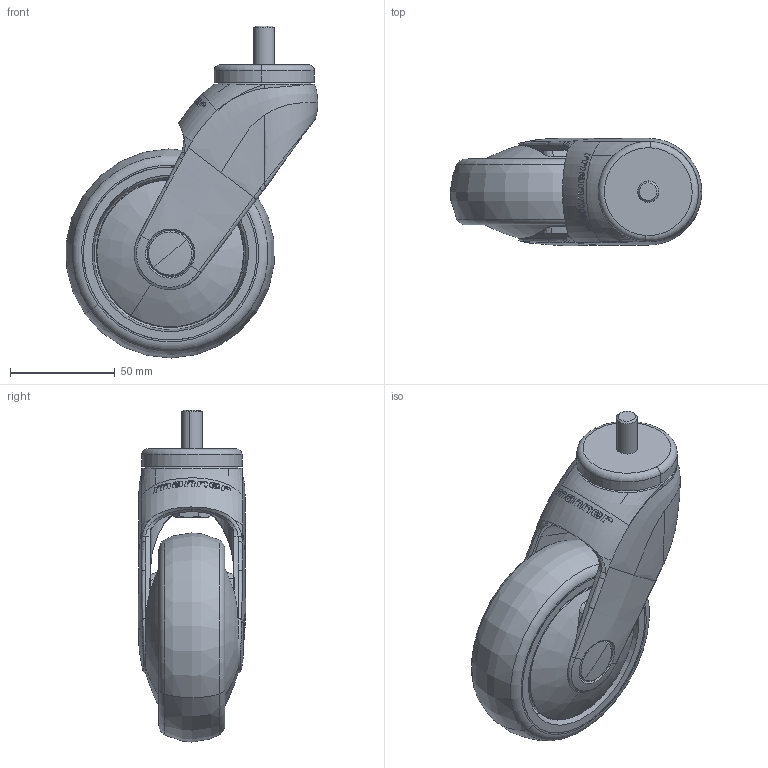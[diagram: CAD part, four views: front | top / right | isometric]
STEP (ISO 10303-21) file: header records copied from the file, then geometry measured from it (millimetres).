
FILE_DESCRIPTION (( 'STEP AP203' ), '1' );
FILE_NAME ('301751.STEP', '2010-07-15T07:28:55', ( ' ' ), ( ' ' ), 'SwSTEP 2.0', 'SolidWorks 2007', '' );
FILE_SCHEMA (( 'CONFIG_CONTROL_DESIGN' ));
Length unit declared in the file: millimetre
Products named in the file (1): 301751
Bounding box: 120.28 x 51.24 x 158.78 mm (x, y, z)
Volume: 229975.7 mm3; surface area: 121262.3 mm2
Topology: 21 solids, 21 shells, 762 faces, 2553 edges, 1839 vertices
Faces by surface type: plane 199, bspline 182, cylinder 178, cone 115, torus 68, sphere 20
Entity records: 72753 total; most frequent: CARTESIAN_POINT 53262, ORIENTED_EDGE 5004, DIRECTION 2903, EDGE_CURVE 2502, VERTEX_POINT 1815, B_SPLINE_CURVE_WITH_KNOTS 1289, AXIS2_PLACEMENT_3D 1225, EDGE_LOOP 819
